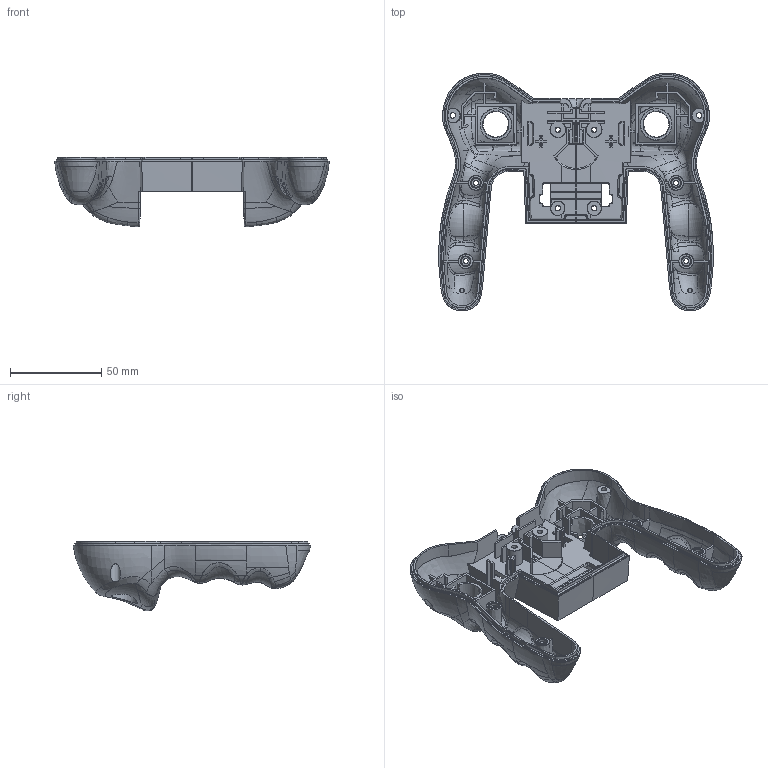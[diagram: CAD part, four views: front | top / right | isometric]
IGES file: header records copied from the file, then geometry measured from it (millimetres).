
Bounding box: 150.11 x 130.07 x 38.07 mm (x, y, z)
Surface area: 64800.4 mm2 (no closed solid volume)
Topology: 0 solids, 0 shells, 1006 faces, 6278 edges, 6208 vertices
Faces by surface type: bspline 922, extrusion 46, revolution 38
